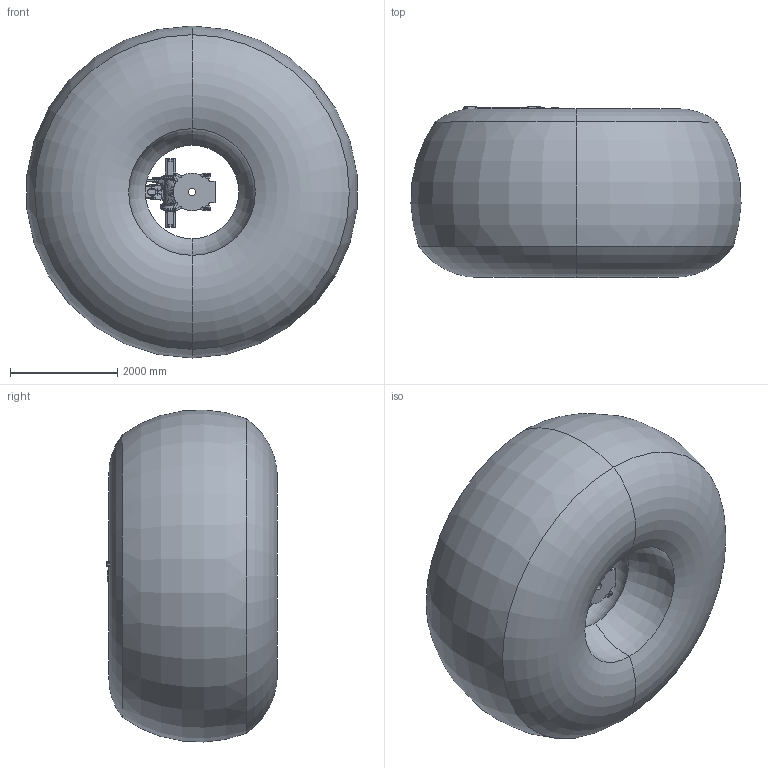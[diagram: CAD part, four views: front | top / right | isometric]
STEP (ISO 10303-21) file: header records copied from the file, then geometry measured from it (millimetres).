
FILE_DESCRIPTION (( 'STEP AP214' ), '1' );
FILE_NAME ('SMART5 PAL 180-3.1 (3D-STEP).STEP', '2015-01-09T13:59:57', ( '' ), ( '' ), 'SwSTEP 2.0', 'SolidWorks 2011', '' );
FILE_SCHEMA (( 'AUTOMOTIVE_DESIGN' ));
Length unit declared in the file: millimetre
Products named in the file (18): Operation Area SMART5 PAL 180-3.1; SMART5 PAL 180-3.1_p13; SMART5 PAL 180-3.1_CR82350050_SM; SMART5 PAL 180-3.1_CR82350080_SM; SMART5 PAL 180-3.1_CR82350090_SM; SMART5 PAL 180-3.1_p12; SMART5 PAL 180-3.1_p11; SMART5 PAL 180-3.1_p10; SMART5 PAL 180-3.1_p09; SMART5 PAL 180-3.1_p08; SMART5 PAL 180-3.1_p07; SMART5 PAL 180-3.1_p06; SMART5 PAL 180-3.1_p05; SMART5 PAL 180-3.1_p04; SMART5 PAL 180-3.1_p03; SMART5 PAL 180-3.1_p02; SMART5 PAL 180-3.1_p01; SMART5 PAL 180-3.1 (3D-STEP)
Assembly tree (18 placements, depth 2):
  SMART5 PAL 180-3.1 (3D-STEP)
    SMART5 PAL 180-3.1_p05
    SMART5 PAL 180-3.1_CR82350080_SM
    SMART5 PAL 180-3.1_p11
    SMART5 PAL 180-3.1_p07
    SMART5 PAL 180-3.1_p08
    SMART5 PAL 180-3.1_p01
    SMART5 PAL 180-3.1_CR82350090_SM  x2
    SMART5 PAL 180-3.1_p10
    SMART5 PAL 180-3.1_p12
    SMART5 PAL 180-3.1_p09
    SMART5 PAL 180-3.1_p03
    SMART5 PAL 180-3.1_p13
    Operation Area SMART5 PAL 180-3.1
    SMART5 PAL 180-3.1_CR82350050_SM
    SMART5 PAL 180-3.1_p02
    SMART5 PAL 180-3.1_p06
    SMART5 PAL 180-3.1_p04
Bounding box: 6160.89 x 3190.04 x 6194.83 mm (x, y, z)
Volume: 69582382697.3 mm3; surface area: 124888829 mm2
Topology: 18 solids, 26 shells, 4262 faces, 11740 edges, 7718 vertices
Faces by surface type: cylinder 1751, plane 1604, bspline 478, cone 260, torus 164, sphere 5
Entity records: 177054 total; most frequent: CARTESIAN_POINT 64987, ORIENTED_EDGE 22664, DIRECTION 20187, EDGE_CURVE 11332, VERTEX_POINT 7547, AXIS2_PLACEMENT_3D 7519, LINE 5149, VECTOR 5149
